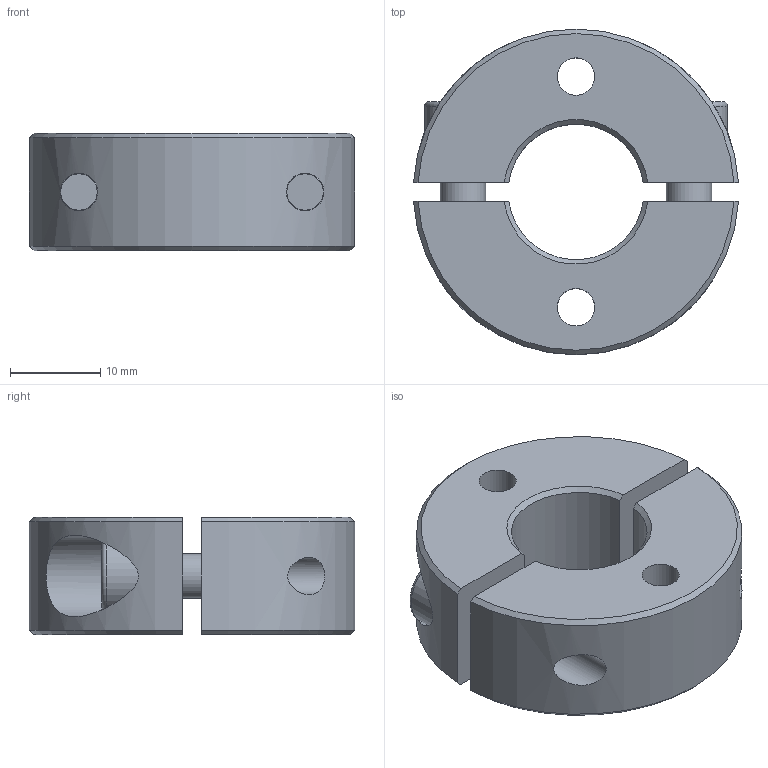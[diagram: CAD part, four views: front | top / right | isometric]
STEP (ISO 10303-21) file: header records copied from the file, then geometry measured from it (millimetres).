
FILE_DESCRIPTION( ( 'STEP AP203' ), '1' );
FILE_NAME( 'C:/Temp/Ganter_Step_05_03_2020/data/3_2/gn7072_2/Split Stainless Steel-Set collar GN 7072.2-36-B15-NI-C.stp', '2020-03-13T05:41:05', ( 'License CC BY-ND 4.0' ), ( 'CADENAS' ), ' ', 'PARTsolutions', ' ' );
FILE_SCHEMA( ( 'CONFIG_CONTROL_DESIGN' ) );
Length unit declared in the file: millimetre
Products named in the file (1): _Split Stainless Steel-Set collar GN 7072.2-36-B15-NI-C
Bounding box: 35.94 x 36 x 13 mm (x, y, z)
Volume: 9394.9 mm3; surface area: 5369.2 mm2
Topology: 1 solids, 1 shells, 58 faces, 136 edges, 92 vertices
Faces by surface type: plane 30, cylinder 16, cone 10, torus 2
Full cylindrical faces by diameter (mm): 4.134 x4, 5 x2, 5.4 x2, 8.5 x2, 9 x2
Entity records: 1833 total; most frequent: CARTESIAN_POINT 552, DIRECTION 250, ORIENTED_EDGE 224, EDGE_CURVE 112, AXIS2_PLACEMENT_3D 99, EDGE_LOOP 92, VERTEX_POINT 84, FACE_OUTER_BOUND 72
